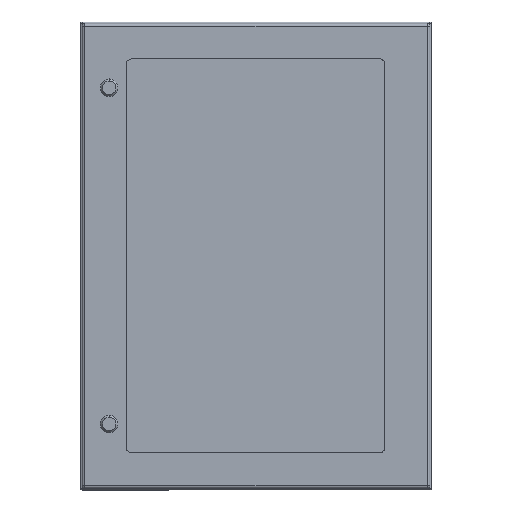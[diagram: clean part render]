
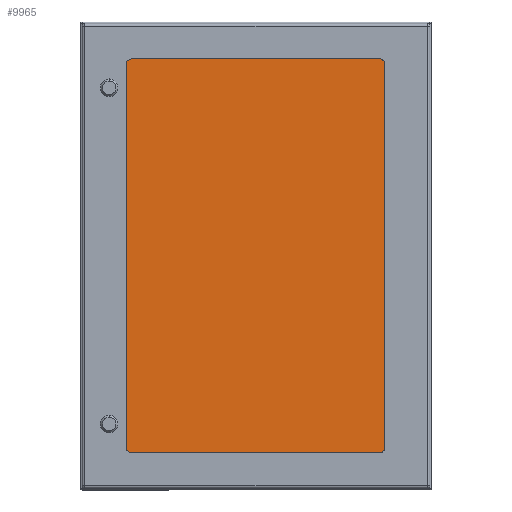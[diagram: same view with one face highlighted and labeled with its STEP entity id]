
A CAD part, top view. The second image highlights one B-rep face of the part: STEP entity #9965.
In plain terms, the highlighted planar face has unit normal (0, 0, 1) as drawn and (0, 0, -1) by its records, which use the part's own axes.
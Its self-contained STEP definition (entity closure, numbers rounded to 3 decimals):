
#601 = VECTOR ( 'NONE', #7971, 1000. ) ;
#607 = LINE ( 'NONE', #8415, #10803 ) ;
#827 = VERTEX_POINT ( 'NONE', #1661 ) ;
#1443 = LINE ( 'NONE', #9219, #601 ) ;
#1661 = CARTESIAN_POINT ( 'NONE',  ( -233.5, -350., 1.5 ) ) ;
#2537 = VECTOR ( 'NONE', #11879, 1000. ) ;
#2676 = FACE_OUTER_BOUND ( 'NONE', #6455, .T. ) ;
#2945 = EDGE_CURVE ( 'NONE', #11070, #827, #607, .T. ) ;
#3220 = LINE ( 'NONE', #3993, #2537 ) ;
#3257 = CARTESIAN_POINT ( 'NONE',  ( 235., -350., 1.5 ) ) ;
#3708 = VERTEX_POINT ( 'NONE', #4764 ) ;
#3993 = CARTESIAN_POINT ( 'NONE',  ( 235., -350., 1.5 ) ) ;
#4208 = ORIENTED_EDGE ( 'NONE', *, *, #10709, .F. ) ;
#4764 = CARTESIAN_POINT ( 'NONE',  ( 235., 350., 1.5 ) ) ;
#5754 = CARTESIAN_POINT ( 'NONE',  ( -233.5, 350., 1.5 ) ) ;
#6455 = EDGE_LOOP ( 'NONE', ( #8215, #4208, #7930, #10531 ) ) ;
#6556 = PLANE ( 'NONE',  #10246 ) ;
#6757 = LINE ( 'NONE', #5754, #8219 ) ;
#7180 = CARTESIAN_POINT ( 'NONE',  ( -233.5, 350., 1.5 ) ) ;
#7525 = EDGE_CURVE ( 'NONE', #3708, #11070, #6757, .T. ) ;
#7930 = ORIENTED_EDGE ( 'NONE', *, *, #2945, .F. ) ;
#7971 = DIRECTION ( 'NONE',  ( 1., 0., 0. ) ) ;
#8215 = ORIENTED_EDGE ( 'NONE', *, *, #9827, .F. ) ;
#8219 = VECTOR ( 'NONE', #8422, 1000. ) ;
#8415 = CARTESIAN_POINT ( 'NONE',  ( -233.5, -350., 1.5 ) ) ;
#8422 = DIRECTION ( 'NONE',  ( -1., 0., 0. ) ) ;
#8534 = DIRECTION ( 'NONE',  ( -1., 0., 0. ) ) ;
#9155 = VERTEX_POINT ( 'NONE', #3257 ) ;
#9219 = CARTESIAN_POINT ( 'NONE',  ( -233.5, -350., 1.5 ) ) ;
#9827 = EDGE_CURVE ( 'NONE', #9155, #3708, #3220, .T. ) ;
#9965 = ADVANCED_FACE ( 'NONE', ( #2676 ), #6556, .T. ) ;
#10246 = AXIS2_PLACEMENT_3D ( 'NONE', #12425, #12015, #8534 ) ;
#10531 = ORIENTED_EDGE ( 'NONE', *, *, #7525, .F. ) ;
#10709 = EDGE_CURVE ( 'NONE', #827, #9155, #1443, .T. ) ;
#10803 = VECTOR ( 'NONE', #12309, 1000. ) ;
#11070 = VERTEX_POINT ( 'NONE', #7180 ) ;
#11879 = DIRECTION ( 'NONE',  ( 0., 1., 0. ) ) ;
#12015 = DIRECTION ( 'NONE',  ( 0., 0., -1. ) ) ;
#12309 = DIRECTION ( 'NONE',  ( 0., -1., 0. ) ) ;
#12425 = CARTESIAN_POINT ( 'NONE',  ( 0., 0., 1.5 ) ) ;
